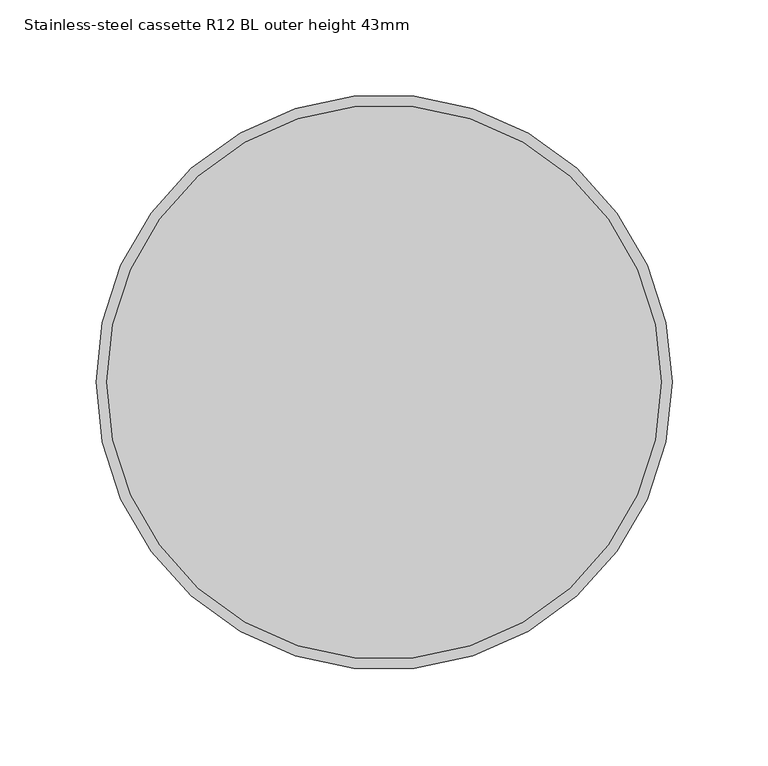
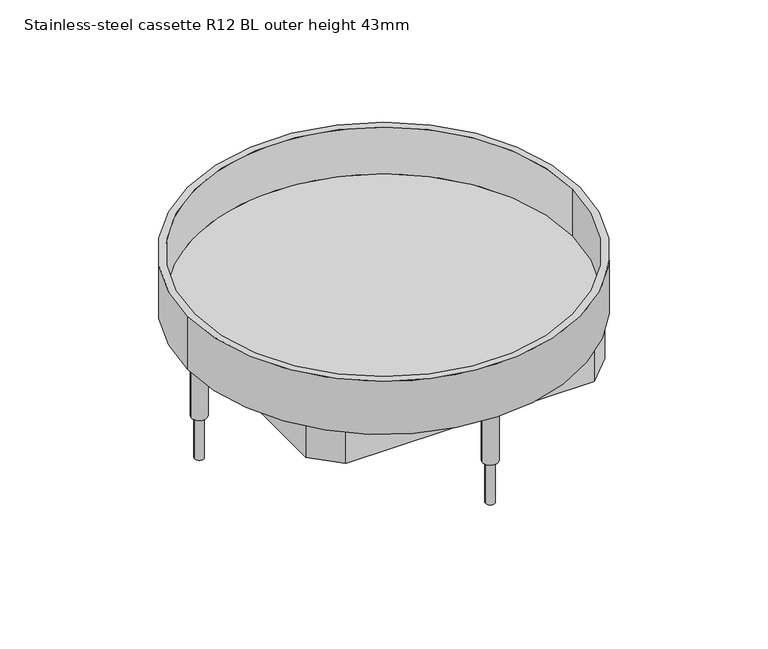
"""IFC4 building model written with IfcOpenShell, lengths in millimetres: proxy geometry, Electrical_Installation_Hager_VE-EE_EKR-Height-adjustable-stainless-steel-cassette-blank-round-for-damp-cleaned-floors : Stainless-steel cassette R12 BL outer height 43mm."""

from ifc_helpers import new_model, si_unit, point, frame, frame_2d, origin, place, context, project, spatial, polyline, circle_curve, trimmed, segment, composite_curve, outline, extrude, source, transform, mapped, element, save
from ifc_brep_helpers import plane_surface, cylinder_surface, revolved_surface, advanced_brep


def stainless_steel_cassette_r12_bl_outer_height_43mm_c021857a(model_context):
    return source(origin(), model_context, "Body", "SolidModel", [
        extrude(outline(composite_curve([segment(trimmed(circle_curve(frame_2d((-141.3, 0.0)), 3.5), [point((-144.8, 0.0))], [point((-137.8, 0.0))], False, "CARTESIAN"), True, "CONTINUOUS"), segment(trimmed(circle_curve(frame_2d((-141.3, 0.0)), 3.5), [point((-137.8, 0.0))], [point((-144.8, 0.0))], False, "CARTESIAN"), True, "CONTINUOUS")], self_intersect=False)), frame((0.0, 0.0, -115.0), z_axis=(0.0, 0.0, 1.0), x_axis=(1.0, 0.0, 0.0)), (0.0, 0.0, 1.0), 74.011943),
        extrude(outline(composite_curve([segment(trimmed(circle_curve(frame_2d((0.0, 141.3)), 3.5), [point((-3.5, 141.3))], [point((3.5, 141.3))], False, "CARTESIAN"), True, "CONTINUOUS"), segment(trimmed(circle_curve(frame_2d((0.0, 141.3)), 3.5), [point((3.5, 141.3))], [point((-3.5, 141.3))], False, "CARTESIAN"), True, "CONTINUOUS")], self_intersect=False)), frame((0.0, 0.0, -115.0), z_axis=(0.0, 0.0, 1.0), x_axis=(1.0, 0.0, 0.0)), (0.0, 0.0, 1.0), 74.011943),
        extrude(outline(composite_curve([segment(trimmed(circle_curve(frame_2d((141.3, 0.0)), 3.548869), [point((137.751131, 0.0))], [point((144.848869, 0.0))], False, "CARTESIAN"), True, "CONTINUOUS"), segment(trimmed(circle_curve(frame_2d((141.3, 0.0)), 3.548869), [point((144.848869, 0.0))], [point((137.751131, 0.0))], False, "CARTESIAN"), True, "CONTINUOUS")], self_intersect=False)), frame((0.0, 0.0, -115.0), z_axis=(0.0, 0.0, 1.0), x_axis=(1.0, 0.0, 0.0)), (0.0, 0.0, 1.0), 74.011943),
        extrude(outline(composite_curve([segment(trimmed(circle_curve(frame_2d((0.0, -141.3)), 3.5), [point((-3.5, -141.3))], [point((3.5, -141.3))], False, "CARTESIAN"), True, "CONTINUOUS"), segment(trimmed(circle_curve(frame_2d((0.0, -141.3)), 3.5), [point((3.5, -141.3))], [point((-3.5, -141.3))], False, "CARTESIAN"), True, "CONTINUOUS")], self_intersect=False)), frame((0.0, 0.0, -115.0), z_axis=(0.0, 0.0, 1.0), x_axis=(1.0, 0.0, 0.0)), (0.0, 0.0, 1.0), 74.011943),
        advanced_brep(
        [(144.5, 0.0, -35.988057), (-144.5, 0.0, -35.988057), (-150.0, 0.0, -40.988057), (150.0, 0.0, -40.988057), (-150.0, 0.0, 2.011943), (150.0, 0.0, 2.011943), (-144.5, 0.0, 2.011943), (144.5, 0.0, 2.011943)],
        [
            (0, 1, circle_curve(frame((0.0, 0.0, -35.988057), z_axis=(0.0, 0.0, 1.0), x_axis=(1.0, 0.0, 0.0)), 144.5)),
            (1, 0, circle_curve(frame((0.0, 0.0, -35.988057), z_axis=(0.0, 0.0, 1.0), x_axis=(1.0, 0.0, 0.0)), 144.5)),
            (2, 3, circle_curve(frame((0.0, 0.0, -40.988057), z_axis=(0.0, 0.0, -1.0), x_axis=(1.0, 0.0, 0.0)), 150.0)),
            (3, 2, circle_curve(frame((0.0, 0.0, -40.988057), z_axis=(0.0, 0.0, -1.0), x_axis=(1.0, 0.0, 0.0)), 150.0)),
            (4, 5, circle_curve(frame((0.0, 0.0, 2.011943), z_axis=(0.0, 0.0, 1.0), x_axis=(1.0, 0.0, 0.0)), 150.0)),
            (5, 4, circle_curve(frame((0.0, 0.0, 2.011943), z_axis=(0.0, 0.0, 1.0), x_axis=(1.0, 0.0, 0.0)), 150.0)),
            (6, 7, circle_curve(frame((0.0, 0.0, 2.011943), z_axis=(0.0, 0.0, -1.0), x_axis=(1.0, 0.0, 0.0)), 144.5)),
            (7, 6, circle_curve(frame((0.0, 0.0, 2.011943), z_axis=(0.0, 0.0, -1.0), x_axis=(1.0, 0.0, 0.0)), 144.5)),
            (4, 2),
            (3, 5),
            (6, 1),
            (0, 7),
        ],
        [
            plane_surface(frame((144.5, 0.0, -35.988057), z_axis=(0.0, 0.0, 1.0), x_axis=(0.0, 1.0, 0.0))),
            plane_surface(frame((144.5, 0.0, -40.988057), z_axis=(0.0, 0.0, -1.0), x_axis=(0.0, -1.0, 0.0))),
            plane_surface(frame((150.0, 0.0, 2.011943), z_axis=(0.0, 0.0, 1.0), x_axis=(0.0, 1.0, 0.0))),
            cylinder_surface(frame((0.0, 0.0, -40.988057), z_axis=(0.0, 0.0, 1.0), x_axis=(1.0, 0.0, 0.0)), 150.0),
            revolved_surface(polyline([(144.5, 0.0, -35.988057), (144.5, 0.0, 2.011943)]), (0.0, 0.0, 0.0), (0.0, 0.0, -1.0)),
        ],
        [
            (0, [[1, 2]]),
            (1, [[3, 4]]),
            (2, [[5, 6], [7, 8]]),
            (3, [[-5, 9, -4, 10]]),
            (3, [[-6, -10, -3, -9]]),
            (4, [[-7, 11, -1, 12]]),
            (4, [[-8, -12, -2, -11]]),
        ],
    ),
        extrude(outline(polyline([(94.9818914, 114.5), (114.5, 94.9818914), (114.5, -94.9818914), (94.9818914, -114.5), (-94.9818914, -114.5), (-114.5, -94.9818914), (-114.5, 94.9818914), (-94.9818914, 114.5), (94.9818914, 114.5)]), holes=[polyline([(-111.5, 93.8602374), (-111.5, -93.8602374), (-93.8602374, -111.5), (93.8602374, -111.5), (111.5, -93.8602374), (111.5, 93.8602374), (93.8602374, 111.5), (-93.8602374, 111.5), (-111.5, 93.8602374)])]), frame((0.0, 0.0, -66.9283404), z_axis=(0.0, 0.0, 1.0), x_axis=(1.0, 0.0, 0.0)), (0.0, 0.0, 1.0), 25.9402834),
        extrude(outline(composite_curve([segment(trimmed(circle_curve(frame_2d((0.0, 141.3)), 5.9738904), [point((-5.9738904, 141.3))], [point((5.9738904, 141.3))], False, "CARTESIAN"), True, "CONTINUOUS"), segment(trimmed(circle_curve(frame_2d((0.0, 141.3)), 5.9738904), [point((5.9738904, 141.3))], [point((-5.9738904, 141.3))], False, "CARTESIAN"), True, "CONTINUOUS")], self_intersect=False)), frame((0.0, 0.0, -81.0371838), z_axis=(0.0, 0.0, 1.0), x_axis=(1.0, 0.0, 0.0)), (0.0, 0.0, 1.0), 40.0491267),
        extrude(outline(composite_curve([segment(trimmed(circle_curve(frame_2d((141.3, 0.0)), 6.0), [point((135.3, 0.0))], [point((147.3, 0.0))], False, "CARTESIAN"), True, "CONTINUOUS"), segment(trimmed(circle_curve(frame_2d((141.3, 0.0)), 6.0), [point((147.3, 0.0))], [point((135.3, 0.0))], False, "CARTESIAN"), True, "CONTINUOUS")], self_intersect=False)), frame((0.0, 0.0, -81.0371838), z_axis=(0.0, 0.0, 1.0), x_axis=(1.0, 0.0, 0.0)), (0.0, 0.0, 1.0), 40.0491267),
        extrude(outline(composite_curve([segment(trimmed(circle_curve(frame_2d((0.0, -141.3)), 6.0), [point((-6.0, -141.3))], [point((6.0, -141.3))], False, "CARTESIAN"), True, "CONTINUOUS"), segment(trimmed(circle_curve(frame_2d((0.0, -141.3)), 6.0), [point((6.0, -141.3))], [point((-6.0, -141.3))], False, "CARTESIAN"), True, "CONTINUOUS")], self_intersect=False)), frame((0.0, 0.0, -81.0371838), z_axis=(0.0, 0.0, 1.0), x_axis=(1.0, 0.0, 0.0)), (0.0, 0.0, 1.0), 40.0491267),
        extrude(outline(composite_curve([segment(trimmed(circle_curve(frame_2d((-141.3, 0.0)), 6.0), [point((-147.3, 0.0))], [point((-135.3, 0.0))], False, "CARTESIAN"), True, "CONTINUOUS"), segment(trimmed(circle_curve(frame_2d((-141.3, 0.0)), 6.0), [point((-135.3, 0.0))], [point((-147.3, 0.0))], False, "CARTESIAN"), True, "CONTINUOUS")], self_intersect=False)), frame((0.0, 0.0, -81.0371838), z_axis=(0.0, 0.0, 1.0), x_axis=(1.0, 0.0, 0.0)), (0.0, 0.0, 1.0), 40.0491267),
    ])


if __name__ == "__main__":
    model = new_model("IFC4")
    model_context = context("Model", 3, world=origin())
    ifc_project = project(units=[si_unit("LENGTHUNIT", "METRE", prefix="MILLI")], contexts=[model_context])
    site = spatial("IfcSite", under=ifc_project)
    building = spatial("IfcBuilding", under=site)
    placement = place(None, origin())
    stainless_steel_cassette_r12_bl_outer_height_43mm_shape = stainless_steel_cassette_r12_bl_outer_height_43mm_c021857a(model_context)
    element("IfcBuildingElementProxy", 1, Name="Electrical_Installation_Hager_VE-EE_EKR-Height-adjustable-stainless-steel-cassette-blank-round-for-damp-cleaned-floors : Stainless-steel cassette R12 BL outer height 43mm", ObjectType="Electrical_Installation_Hager_VE-EE_EKR-Height-adjustable-stainless-steel-cassette-blank-round-for-damp-cleaned-floors : Stainless-steel cassette R12 BL outer height 43mm", at=placement, inside=building, context=model_context, shape_type="MappedRepresentation", body=[
        mapped(stainless_steel_cassette_r12_bl_outer_height_43mm_shape, transform((0.0, 0.0, 0.0), x_axis=(1.0, 0.0, 0.0), y_axis=(0.0, 1.0, 0.0), z_axis=(0.0, 0.0, 1.0))),
    ])
    save(model, "model.ifc")
